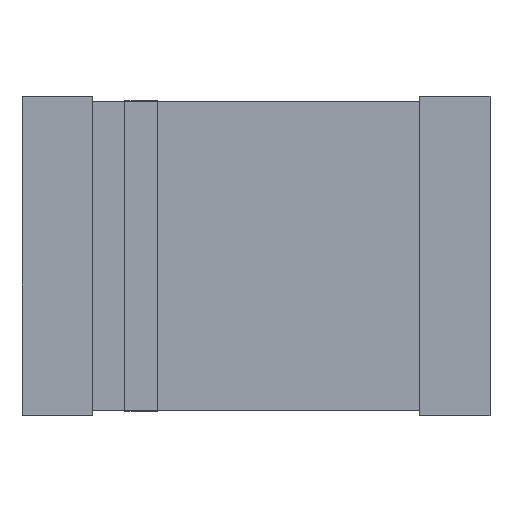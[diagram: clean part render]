
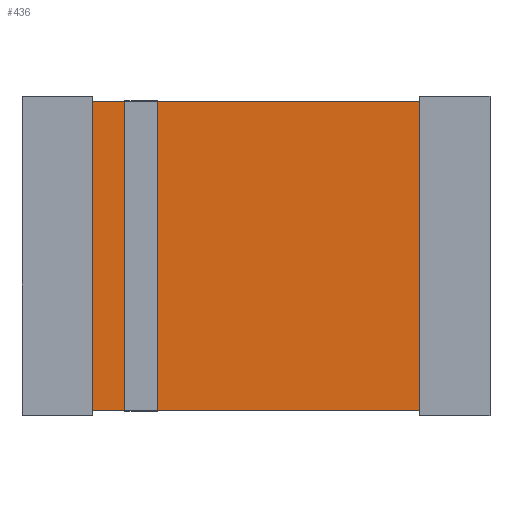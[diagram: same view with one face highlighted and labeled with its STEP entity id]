
A CAD part, top view. The second image highlights one B-rep face of the part: STEP entity #436.
In plain terms, the highlighted planar face has unit normal (0, 0, 1).
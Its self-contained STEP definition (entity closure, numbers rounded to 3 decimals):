
#212=CARTESIAN_POINT('',(2.794,-2.64,1.624));
#211=VERTEX_POINT('',#212);
#222=CARTESIAN_POINT('',(-2.794,-2.64,1.624));
#221=VERTEX_POINT('',#222);
#220=EDGE_CURVE('',#221,#211,#225,.T.);
#225=LINE('',#222,#227);
#227=VECTOR('',#228,5.588);
#228=DIRECTION('',(1.0,0.0,0.0));
#261=CARTESIAN_POINT('',(2.794,2.64,1.624));
#260=VERTEX_POINT('',#261);
#269=EDGE_CURVE('',#211,#260,#274,.T.);
#274=LINE('',#212,#276);
#276=VECTOR('',#277,5.28);
#277=DIRECTION('',(0.0,1.0,0.0));
#310=CARTESIAN_POINT('',(-2.794,2.64,1.624));
#309=VERTEX_POINT('',#310);
#318=EDGE_CURVE('',#260,#309,#323,.T.);
#323=LINE('',#261,#325);
#325=VECTOR('',#326,5.588);
#326=DIRECTION('',(-1.0,0.0,0.0));
#367=EDGE_CURVE('',#309,#221,#372,.T.);
#372=LINE('',#310,#374);
#374=VECTOR('',#375,5.28);
#375=DIRECTION('',(0.0,-1.0,0.0));
#436=ADVANCED_FACE('',(#442),#437,.T.);
#437=PLANE('',#438);
#438=AXIS2_PLACEMENT_3D('',#439,#440,#441);
#439=CARTESIAN_POINT('',(-2.794,-2.64,1.624));
#440=DIRECTION('',(0.0,0.0,1.0));
#441=DIRECTION('',(0.,1.,0.));
#442=FACE_OUTER_BOUND('',#443,.T.);
#443=EDGE_LOOP('',(#444,#454,#464,#474));
#444=ORIENTED_EDGE('',*,*,#220,.T.);
#454=ORIENTED_EDGE('',*,*,#269,.T.);
#464=ORIENTED_EDGE('',*,*,#318,.T.);
#474=ORIENTED_EDGE('',*,*,#367,.T.);
